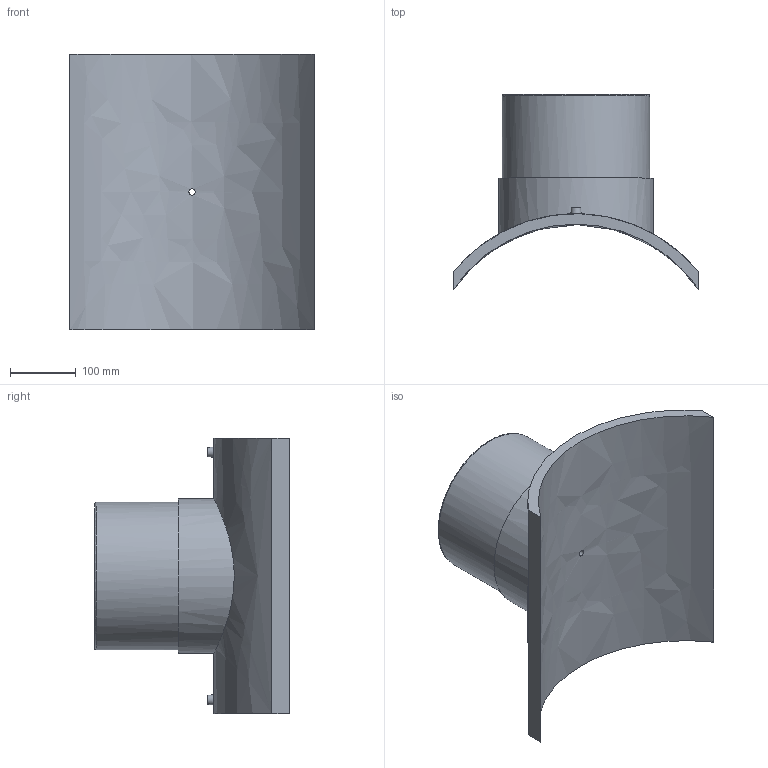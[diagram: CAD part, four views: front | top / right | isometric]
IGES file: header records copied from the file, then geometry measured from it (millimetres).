
Global section: file name: 495803450225TN; native system: Autodesk Inventor 2019; preprocessor: unknown; author: KIM; date: 20240404.115129; units: millimetre
Bounding box: 373 x 297.13 x 420 mm (x, y, z)
Volume: 5965480 mm3; surface area: 657426.5 mm2
Topology: 1 solids, 1 shells, 29 faces, 60 edges, 43 vertices
Faces by surface type: bspline 29
